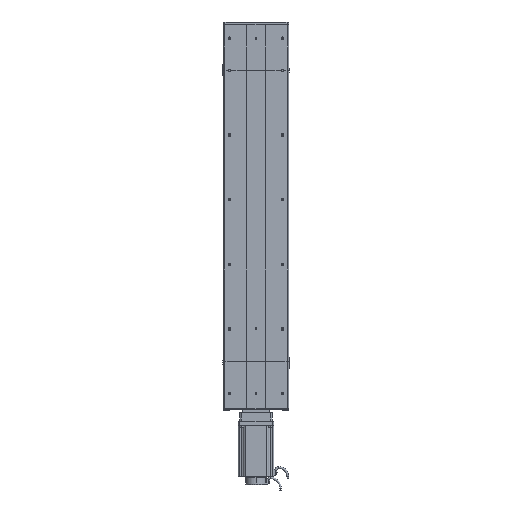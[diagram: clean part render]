
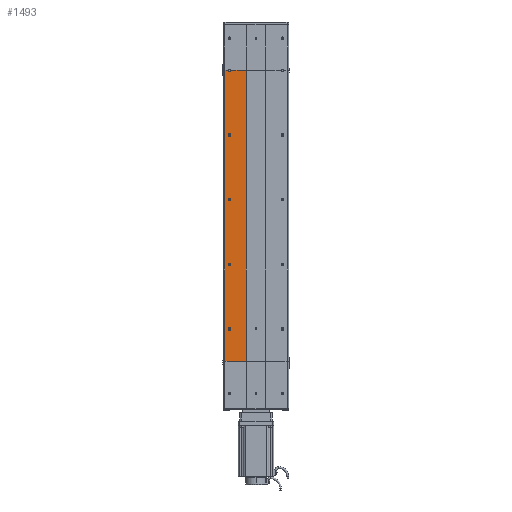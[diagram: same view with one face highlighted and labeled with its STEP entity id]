
A CAD part, front view. The second image highlights one B-rep face of the part: STEP entity #1493.
In plain terms, the highlighted planar face has unit normal (0, -1, 0).
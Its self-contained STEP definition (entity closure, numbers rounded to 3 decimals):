
#1455 = VERTEX_POINT ( 'NONE', #22720 ) ;
#1456 = ORIENTED_EDGE ( 'NONE', *, *, #1467, .F. ) ;
#1457 = EDGE_LOOP ( 'NONE', ( #1463, #1465, #1464, #1473, #1471, #1466 ) ) ;
#1459 = ORIENTED_EDGE ( 'NONE', *, *, #56867, .F. ) ;
#1460 = EDGE_CURVE ( 'NONE', #1472, #1455, #22539, .T. ) ;
#1462 = EDGE_CURVE ( 'NONE', #46759, #1472, #22790, .T. ) ;
#1463 = ORIENTED_EDGE ( 'NONE', *, *, #56764, .F. ) ;
#1464 = ORIENTED_EDGE ( 'NONE', *, *, #48565, .F. ) ;
#1465 = ORIENTED_EDGE ( 'NONE', *, *, #1469, .F. ) ;
#1466 = ORIENTED_EDGE ( 'NONE', *, *, #1468, .T. ) ;
#1467 = EDGE_CURVE ( 'NONE', #56866, #56363, #22537, .T. ) ;
#1468 = EDGE_CURVE ( 'NONE', #1455, #56758, #22771, .T. ) ;
#1469 = EDGE_CURVE ( 'NONE', #48718, #56611, #22528, .T. ) ;
#1471 = ORIENTED_EDGE ( 'NONE', *, *, #1460, .T. ) ;
#1472 = VERTEX_POINT ( 'NONE', #22779 ) ;
#1473 = ORIENTED_EDGE ( 'NONE', *, *, #1462, .T. ) ;
#1493 = ADVANCED_FACE ( 'NONE', ( #22939, #23193, #23098, #23145, #22942 ), #23127, .F. ) ;
#1495 = EDGE_CURVE ( 'NONE', #56399, #56653, #23058, .T. ) ;
#1499 = ORIENTED_EDGE ( 'NONE', *, *, #1502, .F. ) ;
#1500 = EDGE_LOOP ( 'NONE', ( #1456, #1459 ) ) ;
#1502 = EDGE_CURVE ( 'NONE', #56401, #56451, #23082, .T. ) ;
#1504 = ORIENTED_EDGE ( 'NONE', *, *, #1495, .F. ) ;
#1505 = ORIENTED_EDGE ( 'NONE', *, *, #1565, .F. ) ;
#1508 = ORIENTED_EDGE ( 'NONE', *, *, #56635, .F. ) ;
#1564 = EDGE_LOOP ( 'NONE', ( #1505, #1569 ) ) ;
#1565 = EDGE_CURVE ( 'NONE', #56155, #56136, #23326, .T. ) ;
#1566 = ORIENTED_EDGE ( 'NONE', *, *, #56405, .F. ) ;
#1567 = EDGE_LOOP ( 'NONE', ( #1504, #1508 ) ) ;
#1568 = EDGE_LOOP ( 'NONE', ( #1499, #1566 ) ) ;
#1569 = ORIENTED_EDGE ( 'NONE', *, *, #56160, .F. ) ;
#22528 = CIRCLE ( 'NONE', #22826, 4. ) ;
#22537 = CIRCLE ( 'NONE', #22776, 4. ) ;
#22539 = LINE ( 'NONE', #22884, #22883 ) ;
#22541 = CARTESIAN_POINT ( 'NONE',  ( -30., -34.5, 0. ) ) ;
#22720 = CARTESIAN_POINT ( 'NONE',  ( -30., -34.5, 0. ) ) ;
#22760 = DIRECTION ( 'NONE',  ( 0., 0., 1. ) ) ;
#22762 = VECTOR ( 'NONE', #22760, 1000. ) ;
#22766 = DIRECTION ( 'NONE',  ( 1., 0., 0. ) ) ;
#22769 = DIRECTION ( 'NONE',  ( 1., 0., 0. ) ) ;
#22771 = LINE ( 'NONE', #22541, #22762 ) ;
#22772 = DIRECTION ( 'NONE',  ( 0., -1., 0. ) ) ;
#22776 = AXIS2_PLACEMENT_3D ( 'NONE', #22782, #22789, #22769 ) ;
#22779 = CARTESIAN_POINT ( 'NONE',  ( -96., -34.5, 0. ) ) ;
#22782 = CARTESIAN_POINT ( 'NONE',  ( -82., -34.5, 100. ) ) ;
#22784 = VECTOR ( 'NONE', #22898, 1000. ) ;
#22789 = DIRECTION ( 'NONE',  ( 0., -1., 0. ) ) ;
#22790 = LINE ( 'NONE', #22899, #22784 ) ;
#22792 = CARTESIAN_POINT ( 'NONE',  ( -82., -34.5, 900. ) ) ;
#22826 = AXIS2_PLACEMENT_3D ( 'NONE', #22792, #22772, #22766 ) ;
#22882 = DIRECTION ( 'NONE',  ( 1., 0., 0. ) ) ;
#22883 = VECTOR ( 'NONE', #22882, 1000. ) ;
#22884 = CARTESIAN_POINT ( 'NONE',  ( -96., -34.5, 0. ) ) ;
#22898 = DIRECTION ( 'NONE',  ( 0., 0., -1. ) ) ;
#22899 = CARTESIAN_POINT ( 'NONE',  ( -96., -34.5, 900. ) ) ;
#22939 = FACE_BOUND ( 'NONE', #1564, .T. ) ;
#22942 = FACE_OUTER_BOUND ( 'NONE', #1457, .T. ) ;
#22943 = DIRECTION ( 'NONE',  ( 0., 1., 0. ) ) ;
#22944 = CARTESIAN_POINT ( 'NONE',  ( -96., -34.5, 900. ) ) ;
#22945 = AXIS2_PLACEMENT_3D ( 'NONE', #22944, #22943, #23059 ) ;
#23058 = CIRCLE ( 'NONE', #23123, 4. ) ;
#23059 = DIRECTION ( 'NONE',  ( -1., 0., 0. ) ) ;
#23082 = CIRCLE ( 'NONE', #23210, 4. ) ;
#23084 = DIRECTION ( 'NONE',  ( 1., 0., 0. ) ) ;
#23098 = FACE_BOUND ( 'NONE', #1567, .T. ) ;
#23121 = DIRECTION ( 'NONE',  ( 0., -1., 0. ) ) ;
#23123 = AXIS2_PLACEMENT_3D ( 'NONE', #23207, #23121, #23084 ) ;
#23127 = PLANE ( 'NONE',  #22945 ) ;
#23145 = FACE_BOUND ( 'NONE', #1500, .T. ) ;
#23180 = DIRECTION ( 'NONE',  ( 1., 0., 0. ) ) ;
#23181 = DIRECTION ( 'NONE',  ( 0., -1., 0. ) ) ;
#23182 = CARTESIAN_POINT ( 'NONE',  ( -82., -34.5, 500. ) ) ;
#23193 = FACE_BOUND ( 'NONE', #1568, .T. ) ;
#23207 = CARTESIAN_POINT ( 'NONE',  ( -82., -34.5, 300. ) ) ;
#23210 = AXIS2_PLACEMENT_3D ( 'NONE', #23182, #23181, #23180 ) ;
#23326 = CIRCLE ( 'NONE', #23457, 4. ) ;
#23405 = CARTESIAN_POINT ( 'NONE',  ( -82., -34.5, 700. ) ) ;
#23457 = AXIS2_PLACEMENT_3D ( 'NONE', #23405, #23542, #23541 ) ;
#23541 = DIRECTION ( 'NONE',  ( 1., 0., 0. ) ) ;
#23542 = DIRECTION ( 'NONE',  ( 0., -1., 0. ) ) ;
#37965 = CARTESIAN_POINT ( 'NONE',  ( -96., -34.5, 900. ) ) ;
#38144 = DIRECTION ( 'NONE',  ( 1., 0., 0. ) ) ;
#38145 = VECTOR ( 'NONE', #38144, 1000. ) ;
#38146 = CARTESIAN_POINT ( 'NONE',  ( -96., -34.5, 900. ) ) ;
#38149 = LINE ( 'NONE', #38146, #38145 ) ;
#38292 = CARTESIAN_POINT ( 'NONE',  ( -86., -34.5, 900. ) ) ;
#45975 = CARTESIAN_POINT ( 'NONE',  ( -86., -34.5, 700. ) ) ;
#45993 = CARTESIAN_POINT ( 'NONE',  ( -78., -34.5, 700. ) ) ;
#46003 = CARTESIAN_POINT ( 'NONE',  ( -82., -34.5, 700. ) ) ;
#46004 = AXIS2_PLACEMENT_3D ( 'NONE', #46003, #46065, #46064 ) ;
#46064 = DIRECTION ( 'NONE',  ( 1., 0., 0. ) ) ;
#46065 = DIRECTION ( 'NONE',  ( 0., -1., 0. ) ) ;
#46073 = CIRCLE ( 'NONE', #46004, 4. ) ;
#46370 = CARTESIAN_POINT ( 'NONE',  ( -86., -34.5, 100. ) ) ;
#46422 = DIRECTION ( 'NONE',  ( 1., 0., 0. ) ) ;
#46423 = DIRECTION ( 'NONE',  ( 0., -1., 0. ) ) ;
#46440 = CARTESIAN_POINT ( 'NONE',  ( -78., -34.5, 500. ) ) ;
#46442 = CARTESIAN_POINT ( 'NONE',  ( -78., -34.5, 300. ) ) ;
#46446 = AXIS2_PLACEMENT_3D ( 'NONE', #46452, #46423, #46422 ) ;
#46448 = CIRCLE ( 'NONE', #46446, 4. ) ;
#46452 = CARTESIAN_POINT ( 'NONE',  ( -82., -34.5, 500. ) ) ;
#46620 = CARTESIAN_POINT ( 'NONE',  ( -86., -34.5, 500. ) ) ;
#46759 = VERTEX_POINT ( 'NONE', #37965 ) ;
#46836 = CARTESIAN_POINT ( 'NONE',  ( -82., -34.5, 300. ) ) ;
#46838 = CARTESIAN_POINT ( 'NONE',  ( -78., -34.5, 900. ) ) ;
#46937 = AXIS2_PLACEMENT_3D ( 'NONE', #46836, #46946, #46990 ) ;
#46940 = CARTESIAN_POINT ( 'NONE',  ( -86., -34.5, 300. ) ) ;
#46946 = DIRECTION ( 'NONE',  ( 0., -1., 0. ) ) ;
#46970 = CIRCLE ( 'NONE', #46937, 4. ) ;
#46990 = DIRECTION ( 'NONE',  ( 1., 0., 0. ) ) ;
#47045 = CARTESIAN_POINT ( 'NONE',  ( -78., -34.5, 100. ) ) ;
#47060 = CIRCLE ( 'NONE', #47156, 4. ) ;
#47078 = DIRECTION ( 'NONE',  ( 1., 0., 0. ) ) ;
#47079 = DIRECTION ( 'NONE',  ( 0., -1., 0. ) ) ;
#47080 = CARTESIAN_POINT ( 'NONE',  ( -82., -34.5, 100. ) ) ;
#47099 = CARTESIAN_POINT ( 'NONE',  ( -96., -34.5, 900. ) ) ;
#47100 = LINE ( 'NONE', #47099, #47140 ) ;
#47139 = DIRECTION ( 'NONE',  ( 1., 0., 0. ) ) ;
#47140 = VECTOR ( 'NONE', #47139, 1000. ) ;
#47156 = AXIS2_PLACEMENT_3D ( 'NONE', #47080, #47079, #47078 ) ;
#47207 = CARTESIAN_POINT ( 'NONE',  ( -30., -34.5, 900. ) ) ;
#48565 = EDGE_CURVE ( 'NONE', #46759, #48718, #38149, .T. ) ;
#48718 = VERTEX_POINT ( 'NONE', #38292 ) ;
#56136 = VERTEX_POINT ( 'NONE', #45975 ) ;
#56155 = VERTEX_POINT ( 'NONE', #45993 ) ;
#56160 = EDGE_CURVE ( 'NONE', #56136, #56155, #46073, .T. ) ;
#56363 = VERTEX_POINT ( 'NONE', #46370 ) ;
#56399 = VERTEX_POINT ( 'NONE', #46442 ) ;
#56401 = VERTEX_POINT ( 'NONE', #46440 ) ;
#56405 = EDGE_CURVE ( 'NONE', #56451, #56401, #46448, .T. ) ;
#56451 = VERTEX_POINT ( 'NONE', #46620 ) ;
#56611 = VERTEX_POINT ( 'NONE', #46838 ) ;
#56635 = EDGE_CURVE ( 'NONE', #56653, #56399, #46970, .T. ) ;
#56653 = VERTEX_POINT ( 'NONE', #46940 ) ;
#56758 = VERTEX_POINT ( 'NONE', #47207 ) ;
#56764 = EDGE_CURVE ( 'NONE', #56611, #56758, #47100, .T. ) ;
#56866 = VERTEX_POINT ( 'NONE', #47045 ) ;
#56867 = EDGE_CURVE ( 'NONE', #56363, #56866, #47060, .T. ) ;
